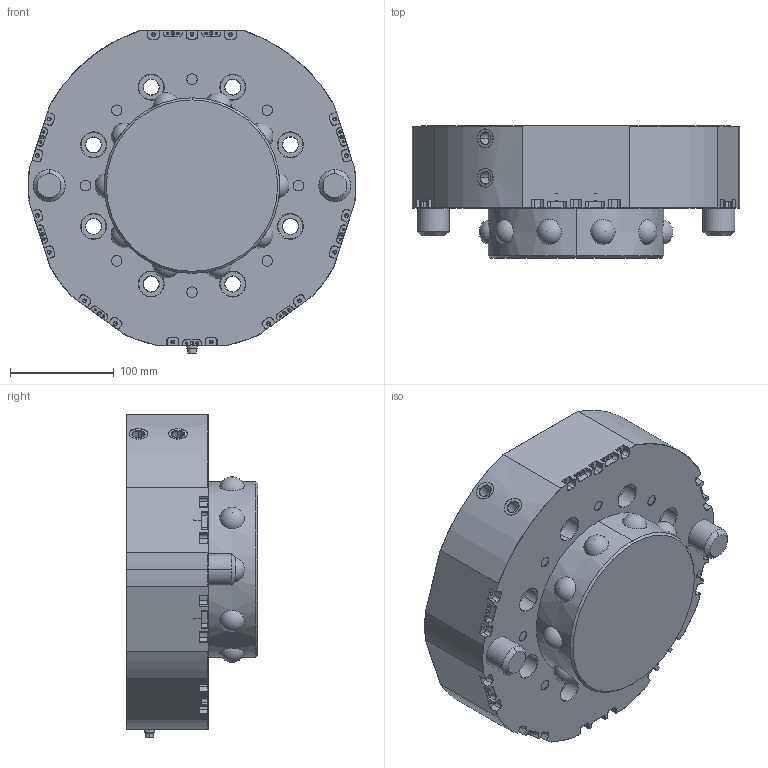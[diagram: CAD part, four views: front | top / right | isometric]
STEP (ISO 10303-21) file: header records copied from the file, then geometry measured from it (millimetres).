
FILE_DESCRIPTION (( 'STEP AP203' ), '1' );
FILE_NAME ('TSKP-M700-00主盘本体.STEP', '2021-08-12T09:34:35', ( '' ), ( '' ), 'SwSTEP 2.0', 'SolidWorks 2018', '' );
FILE_SCHEMA (( 'CONFIG_CONTROL_DESIGN' ));
Products named in the file (1): TSKP-M700-00翋攫掛极
Bounding box: 315 x 127 x 310.3 mm (x, y, z)
Volume: 6955905.4 mm3; surface area: 342253.8 mm2
Topology: 2 solids, 11 shells, 1560 faces, 3629 edges, 2078 vertices
Faces by surface type: cylinder 630, plane 397, cone 324, torus 90, sphere 87, bspline 32
Entity records: 45287 total; most frequent: CARTESIAN_POINT 10578, DIRECTION 7614, ORIENTED_EDGE 6950, EDGE_CURVE 3475, AXIS2_PLACEMENT_3D 2955, VERTEX_POINT 2062, EDGE_LOOP 1715, VECTOR 1704
